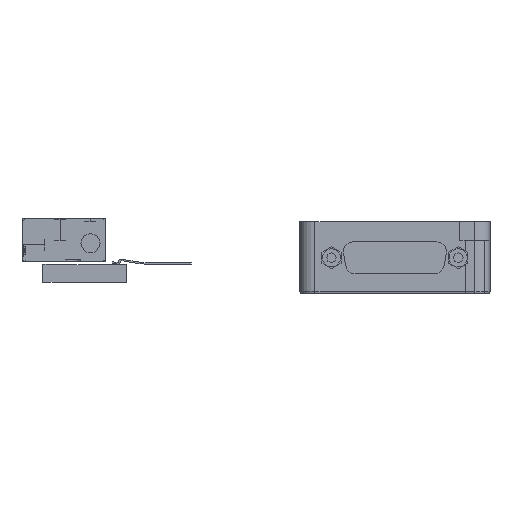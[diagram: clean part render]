
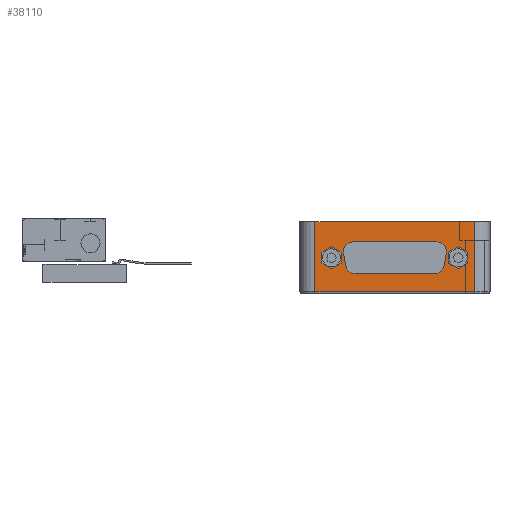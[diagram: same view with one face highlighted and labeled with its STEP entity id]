
A CAD part, left-side view. The second image highlights one B-rep face of the part: STEP entity #38110.
In plain terms, the highlighted planar face has unit normal (-1, 0, 0) as drawn and (1, 0, 0) by its records, which use the part's own axes.
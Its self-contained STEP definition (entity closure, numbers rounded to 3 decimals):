
#32430=CARTESIAN_POINT('',(109.472,-0.3,11.5));
#32440=VERTEX_POINT('',#32430);
#32470=CARTESIAN_POINT('',(109.472,3.7,11.5));
#32480=DIRECTION('',(0.,-1.,0.));
#32490=VECTOR('',#32480,1.);
#32500=LINE('',#32470,#32490);
#32510=CARTESIAN_POINT('',(109.472,-42.3,11.5));
#32520=VERTEX_POINT('',#32510);
#32530=EDGE_CURVE('',#32440,#32520,#32500,.T.);
#36380=CARTESIAN_POINT('',(109.472,-42.3,
-7.));
#36390=VERTEX_POINT('',#36380);
#36420=CARTESIAN_POINT('',(109.472,43.197,-7.)
);
#36430=DIRECTION('',(0.,-1.,0.));
#36440=VECTOR('',#36430,1.);
#36450=LINE('',#36420,#36440);
#36460=CARTESIAN_POINT('',(109.472,-0.3,
-7.));
#36470=VERTEX_POINT('',#36460);
#36480=EDGE_CURVE('',#36470,#36390,#36450,.T.);
#36900=CARTESIAN_POINT('',(109.472,3.7,11.5));
#36910=DIRECTION('',(-1.,0.,0.));
#36920=DIRECTION('',(0.,1.,0.));
#36930=AXIS2_PLACEMENT_3D('',#36900,#36910,#36920);
#36940=PLANE('',#36930);
#36950=CARTESIAN_POINT('',(109.472,-37.96,2.)
);
#36960=DIRECTION('',(1.,0.,0.));
#36970=DIRECTION('',(0.,1.,0.));
#36980=AXIS2_PLACEMENT_3D('',#36950,#36960,#36970);
#36990=CIRCLE('',#36980,2.4);
#37000=CARTESIAN_POINT('',(109.472,-35.56,2.)
);
#37010=VERTEX_POINT('',#37000);
#37020=CARTESIAN_POINT('',(109.472,-40.36,2.)
);
#37030=VERTEX_POINT('',#37020);
#37040=EDGE_CURVE('',#37010,#37030,#36990,.T.);
#37050=ORIENTED_EDGE('',*,*,#37040,.F.);
#37060=EDGE_CURVE('',#37030,#37010,#36990,.T.);
#37070=ORIENTED_EDGE('',*,*,#37060,.F.);
#37080=EDGE_LOOP('',(#37070,#37050));
#37090=FACE_BOUND('',#37080,.T.);
#37100=CARTESIAN_POINT('',(109.472,-31.766,0.33
));
#37110=DIRECTION('',(-1.,0.,0.));
#37120=DIRECTION('',(0.,0.,1.));
#37130=AXIS2_PLACEMENT_3D('',#37100,#37110,#37120);
#37140=CIRCLE('',#37130,2.5);
#37150=CARTESIAN_POINT('',(109.472,-31.766,-2.17
));
#37160=VERTEX_POINT('',#37150);
#37170=CARTESIAN_POINT('',(109.472,-34.228,
-0.104));
#37180=VERTEX_POINT('',#37170);
#37190=EDGE_CURVE('',#37160,#37180,#37140,.T.);
#37200=ORIENTED_EDGE('',*,*,#37190,.T.);
#37210=CARTESIAN_POINT('',(109.472,43.197,-2.17))
;
#37220=DIRECTION('',(0.,-1.,0.));
#37230=VECTOR('',#37220,1.);
#37240=LINE('',#37210,#37230);
#37250=CARTESIAN_POINT('',(109.472,-10.834,
-2.17));
#37260=VERTEX_POINT('',#37250);
#37270=EDGE_CURVE('',#37260,#37160,#37240,.T.);
#37280=ORIENTED_EDGE('',*,*,#37270,.T.);
#37290=CARTESIAN_POINT('',(109.472,-10.834,0.33
));
#37300=DIRECTION('',(-1.,0.,0.));
#37310=DIRECTION('',(0.,0.,1.));
#37320=AXIS2_PLACEMENT_3D('',#37290,#37300,#37310);
#37330=CIRCLE('',#37320,2.5);
#37340=CARTESIAN_POINT('',(109.472,-8.372,
-0.104));
#37350=VERTEX_POINT('',#37340);
#37360=EDGE_CURVE('',#37350,#37260,#37330,.T.);
#37370=ORIENTED_EDGE('',*,*,#37360,.T.);
#37380=CARTESIAN_POINT('',(109.472,-6.325,11.5));
#37390=DIRECTION('',(0.,-0.174,-0.985));
#37400=VECTOR('',#37390,1.);
#37410=LINE('',#37380,#37400);
#37420=CARTESIAN_POINT('',(109.472,-7.783,3.236
));
#37430=VERTEX_POINT('',#37420);
#37440=EDGE_CURVE('',#37430,#37350,#37410,.T.);
#37450=ORIENTED_EDGE('',*,*,#37440,.T.);
#37460=CARTESIAN_POINT('',(109.472,-10.245,3.67
));
#37470=DIRECTION('',(-1.,0.,0.));
#37480=DIRECTION('',(0.,0.,1.));
#37490=AXIS2_PLACEMENT_3D('',#37460,#37470,#37480);
#37500=CIRCLE('',#37490,2.5);
#37510=CARTESIAN_POINT('',(109.472,-10.245,6.17
));
#37520=VERTEX_POINT('',#37510);
#37530=EDGE_CURVE('',#37520,#37430,#37500,.T.);
#37540=ORIENTED_EDGE('',*,*,#37530,.T.);
#37550=CARTESIAN_POINT('',(109.472,43.197,6.17))
;
#37560=DIRECTION('',(0.,1.,0.));
#37570=VECTOR('',#37560,1.);
#37580=LINE('',#37550,#37570);
#37590=CARTESIAN_POINT('',(109.472,-32.355,6.17
));
#37600=VERTEX_POINT('',#37590);
#37610=EDGE_CURVE('',#37600,#37520,#37580,.T.);
#37620=ORIENTED_EDGE('',*,*,#37610,.T.);
#37630=CARTESIAN_POINT('',(109.472,-32.355,3.67
));
#37640=DIRECTION('',(-1.,0.,0.));
#37650=DIRECTION('',(0.,0.,1.));
#37660=AXIS2_PLACEMENT_3D('',#37630,#37640,#37650);
#37670=CIRCLE('',#37660,2.5);
#37680=CARTESIAN_POINT('',(109.472,-34.817,3.236
));
#37690=VERTEX_POINT('',#37680);
#37700=EDGE_CURVE('',#37690,#37600,#37670,.T.);
#37710=ORIENTED_EDGE('',*,*,#37700,.T.);
#37720=CARTESIAN_POINT('',(109.472,-36.274,11.5));
#37730=DIRECTION('',(0.,-0.174,0.985));
#37740=VECTOR('',#37730,1.);
#37750=LINE('',#37720,#37740);
#37760=EDGE_CURVE('',#37180,#37690,#37750,.T.);
#37770=ORIENTED_EDGE('',*,*,#37760,.T.);
#37780=EDGE_LOOP('',(#37770,#37710,#37620,#37540,#37450,#37370,#37280,
#37200));
#37790=FACE_BOUND('',#37780,.T.);
#37800=CARTESIAN_POINT('',(109.472,-4.64,2.
));
#37810=DIRECTION('',(1.,0.,0.));
#37820=DIRECTION('',(0.,1.,0.));
#37830=AXIS2_PLACEMENT_3D('',#37800,#37810,#37820);
#37840=CIRCLE('',#37830,2.4);
#37850=CARTESIAN_POINT('',(109.472,-2.24,2.
));
#37860=VERTEX_POINT('',#37850);
#37870=CARTESIAN_POINT('',(109.472,-7.04,2.
));
#37880=VERTEX_POINT('',#37870);
#37890=EDGE_CURVE('',#37860,#37880,#37840,.T.);
#37900=ORIENTED_EDGE('',*,*,#37890,.F.);
#37910=EDGE_CURVE('',#37880,#37860,#37840,.T.);
#37920=ORIENTED_EDGE('',*,*,#37910,.F.);
#37930=EDGE_LOOP('',(#37920,#37900));
#37940=FACE_BOUND('',#37930,.T.);
#37950=ORIENTED_EDGE('',*,*,#36480,.F.);
#37960=CARTESIAN_POINT('',(109.472,-42.3,11.5));
#37970=DIRECTION('',(0.,0.,-1.));
#37980=VECTOR('',#37970,1.);
#37990=LINE('',#37960,#37980);
#38000=EDGE_CURVE('',#32520,#36390,#37990,.T.);
#38010=ORIENTED_EDGE('',*,*,#38000,.T.);
#38020=ORIENTED_EDGE('',*,*,#32530,.T.);
#38030=CARTESIAN_POINT('',(109.472,-0.3,11.5));
#38040=DIRECTION('',(0.,0.,-1.));
#38050=VECTOR('',#38040,1.);
#38060=LINE('',#38030,#38050);
#38070=EDGE_CURVE('',#32440,#36470,#38060,.T.);
#38080=ORIENTED_EDGE('',*,*,#38070,.F.);
#38090=EDGE_LOOP('',(#38080,#38020,#38010,#37950));
#38100=FACE_OUTER_BOUND('',#38090,.T.);
#38110=ADVANCED_FACE('',(#37090,#37790,#37940,#38100),#36940,.F.);
